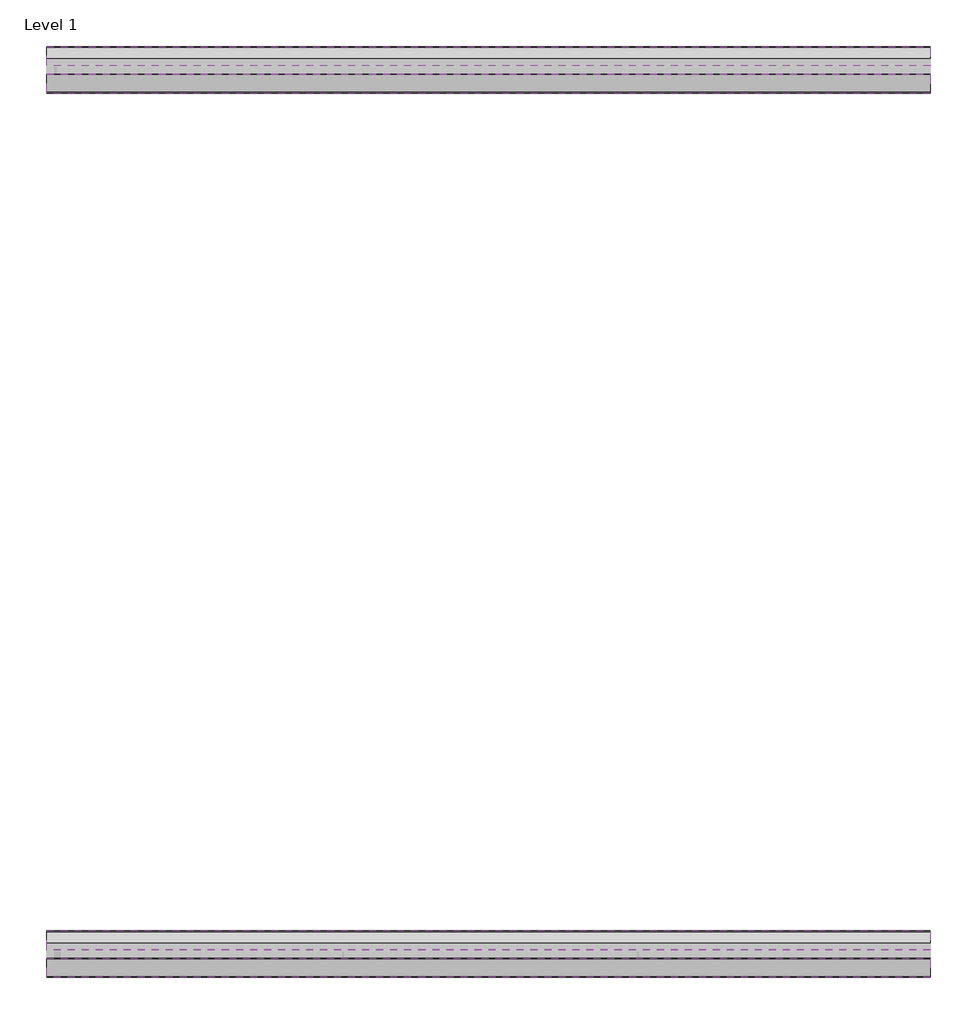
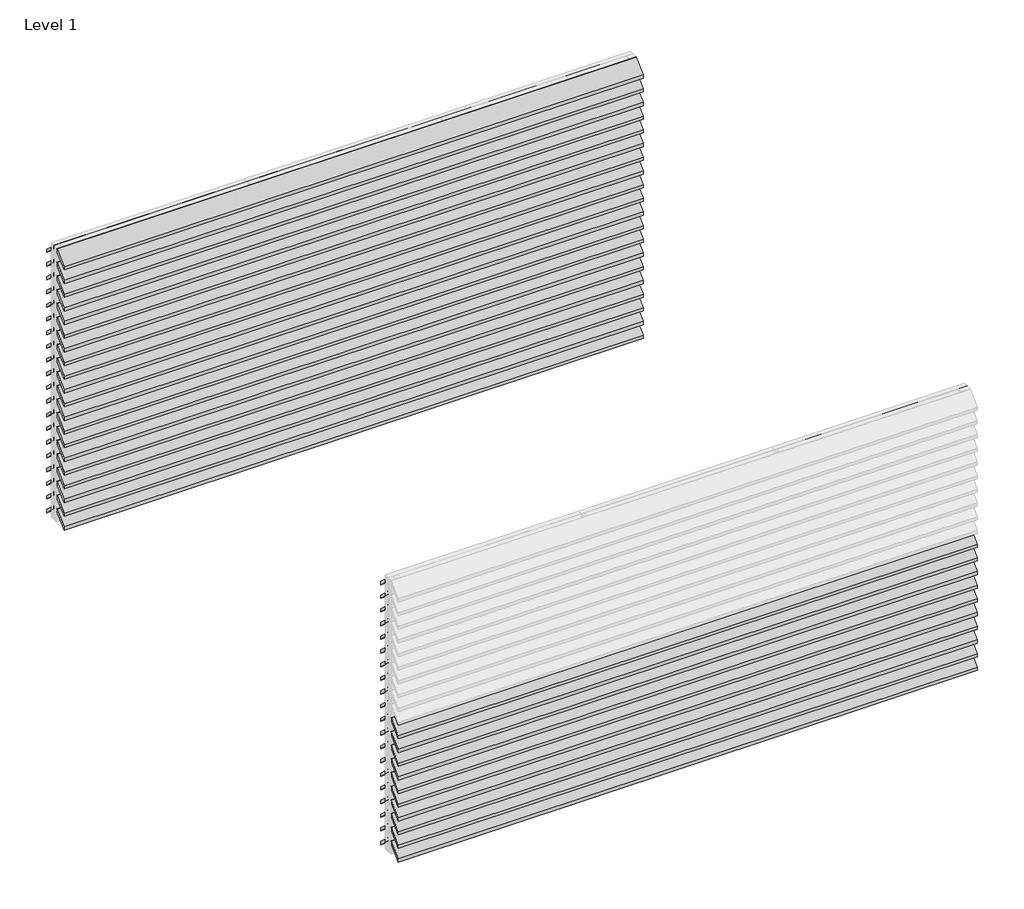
# One storey, part 2 of 2: 70 proxies.
"""IFC4 building model written with IfcOpenShell, lengths in millimetres."""

from ifc_helpers import new_model, si_unit, frame, origin, place, context, project, spatial, polyline, outline, extrude, element, save

model = new_model("IFC4")

# Units and contexts
model_context = context("Model", 3, world=origin())
ifc_project = project(units=[si_unit("LENGTHUNIT", "METRE", prefix="MILLI")], contexts=[model_context])

# Site, building, storey
site = spatial("IfcSite", under=ifc_project)
building = spatial("IfcBuilding", under=site)
storey = spatial("IfcBuildingStorey", under=building, Name="Level 1", Elevation=0.0)

# Proxies
placement = place(None, origin())
element("IfcBuildingElementProxy", 1, Name="Wall Sweeps", at=placement, inside=storey, context=model_context, shape_type="SweptSolid", body=[
    extrude(outline(polyline([(-25995.0, 3000.0), (-25995.0, 2998.0), (-25867.0, 2880.0), (-25867.0, 2845.0), (-25997.0, 2964.84375), (-25997.0, 3000.0), (-25995.0, 3000.0)])), frame((0.0, 0.0, 0.0), z_axis=(1.0, 0.0, 0.0), x_axis=(0.0, 1.0, 0.0)), (0.0, 0.0, 1.0), 6000.0),
])
element("IfcBuildingElementProxy", 2, Name="Wall Sweeps", at=placement, inside=storey, context=model_context, shape_type="SweptSolid", body=[
    extrude(outline(polyline([(-25995.0, 2850.0), (-25995.0, 2848.0), (-25867.0, 2730.0), (-25867.0, 2695.0), (-25997.0, 2814.84375), (-25997.0, 2850.0), (-25995.0, 2850.0)])), frame((0.0, 0.0, 0.0), z_axis=(1.0, 0.0, 0.0), x_axis=(0.0, 1.0, 0.0)), (0.0, 0.0, 1.0), 6000.0),
])
element("IfcBuildingElementProxy", 3, Name="Wall Sweeps", at=placement, inside=storey, context=model_context, shape_type="SweptSolid", body=[
    extrude(outline(polyline([(-25995.0, 2700.0), (-25995.0, 2698.0), (-25867.0, 2580.0), (-25867.0, 2545.0), (-25997.0, 2664.84375), (-25997.0, 2700.0), (-25995.0, 2700.0)])), frame((0.0, 0.0, 0.0), z_axis=(1.0, 0.0, 0.0), x_axis=(0.0, 1.0, 0.0)), (0.0, 0.0, 1.0), 6000.0),
])
element("IfcBuildingElementProxy", 4, Name="Wall Sweeps", at=placement, inside=storey, context=model_context, shape_type="SweptSolid", body=[
    extrude(outline(polyline([(-25995.0, 2550.0), (-25995.0, 2548.0), (-25867.0, 2430.0), (-25867.0, 2395.0), (-25997.0, 2514.84375), (-25997.0, 2550.0), (-25995.0, 2550.0)])), frame((0.0, 0.0, 0.0), z_axis=(1.0, 0.0, 0.0), x_axis=(0.0, 1.0, 0.0)), (0.0, 0.0, 1.0), 6000.0),
])
element("IfcBuildingElementProxy", 5, Name="Wall Sweeps", at=placement, inside=storey, context=model_context, shape_type="SweptSolid", body=[
    extrude(outline(polyline([(-25995.0, 2400.0), (-25995.0, 2398.0), (-25867.0, 2280.0), (-25867.0, 2245.0), (-25997.0, 2364.84375), (-25997.0, 2400.0), (-25995.0, 2400.0)])), frame((0.0, 0.0, 0.0), z_axis=(1.0, 0.0, 0.0), x_axis=(0.0, 1.0, 0.0)), (0.0, 0.0, 1.0), 6000.0),
])
element("IfcBuildingElementProxy", 6, Name="Wall Sweeps", at=placement, inside=storey, context=model_context, shape_type="SweptSolid", body=[
    extrude(outline(polyline([(-25995.0, 2250.0), (-25995.0, 2248.0), (-25867.0, 2130.0), (-25867.0, 2095.0), (-25997.0, 2214.84375), (-25997.0, 2250.0), (-25995.0, 2250.0)])), frame((0.0, 0.0, 0.0), z_axis=(1.0, 0.0, 0.0), x_axis=(0.0, 1.0, 0.0)), (0.0, 0.0, 1.0), 6000.0),
])
element("IfcBuildingElementProxy", 7, Name="Wall Sweeps", at=placement, inside=storey, context=model_context, shape_type="SweptSolid", body=[
    extrude(outline(polyline([(-25995.0, 2100.0), (-25995.0, 2098.0), (-25867.0, 1980.0), (-25867.0, 1945.0), (-25997.0, 2064.84375), (-25997.0, 2100.0), (-25995.0, 2100.0)])), frame((0.0, 0.0, 0.0), z_axis=(1.0, 0.0, 0.0), x_axis=(0.0, 1.0, 0.0)), (0.0, 0.0, 1.0), 6000.0),
])
element("IfcBuildingElementProxy", 8, Name="Wall Sweeps", at=placement, inside=storey, context=model_context, shape_type="SweptSolid", body=[
    extrude(outline(polyline([(-25995.0, 1950.0), (-25995.0, 1948.0), (-25867.0, 1830.0), (-25867.0, 1795.0), (-25997.0, 1914.84375), (-25997.0, 1950.0), (-25995.0, 1950.0)])), frame((0.0, 0.0, 0.0), z_axis=(1.0, 0.0, 0.0), x_axis=(0.0, 1.0, 0.0)), (0.0, 0.0, 1.0), 6000.0),
])
element("IfcBuildingElementProxy", 9, Name="Wall Sweeps", at=placement, inside=storey, context=model_context, shape_type="SweptSolid", body=[
    extrude(outline(polyline([(-25995.0, 1800.0), (-25995.0, 1798.0), (-25867.0, 1680.0), (-25867.0, 1645.0), (-25997.0, 1764.84375), (-25997.0, 1800.0), (-25995.0, 1800.0)])), frame((0.0, 0.0, 0.0), z_axis=(1.0, 0.0, 0.0), x_axis=(0.0, 1.0, 0.0)), (0.0, 0.0, 1.0), 6000.0),
])
element("IfcBuildingElementProxy", 10, Name="Wall Sweeps", at=placement, inside=storey, context=model_context, shape_type="SweptSolid", body=[
    extrude(outline(polyline([(-25995.0, 1650.0), (-25995.0, 1648.0), (-25867.0, 1530.0), (-25867.0, 1495.0), (-25997.0, 1614.84375), (-25997.0, 1650.0), (-25995.0, 1650.0)])), frame((0.0, 0.0, 0.0), z_axis=(1.0, 0.0, 0.0), x_axis=(0.0, 1.0, 0.0)), (0.0, 0.0, 1.0), 6000.0),
])
element("IfcBuildingElementProxy", 11, Name="Wall Sweeps", at=placement, inside=storey, context=model_context, shape_type="SweptSolid", body=[
    extrude(outline(polyline([(-25995.0, 1500.0), (-25995.0, 1498.0), (-25867.0, 1380.0), (-25867.0, 1345.0), (-25997.0, 1464.84375), (-25997.0, 1500.0), (-25995.0, 1500.0)])), frame((0.0, 0.0, 0.0), z_axis=(1.0, 0.0, 0.0), x_axis=(0.0, 1.0, 0.0)), (0.0, 0.0, 1.0), 6000.0),
])
element("IfcBuildingElementProxy", 12, Name="Wall Sweeps", at=placement, inside=storey, context=model_context, shape_type="SweptSolid", body=[
    extrude(outline(polyline([(-25995.0, 1350.0), (-25995.0, 1348.0), (-25867.0, 1230.0), (-25867.0, 1195.0), (-25997.0, 1314.84375), (-25997.0, 1350.0), (-25995.0, 1350.0)])), frame((0.0, 0.0, 0.0), z_axis=(1.0, 0.0, 0.0), x_axis=(0.0, 1.0, 0.0)), (0.0, 0.0, 1.0), 6000.0),
])
element("IfcBuildingElementProxy", 13, Name="Wall Sweeps", at=placement, inside=storey, context=model_context, shape_type="SweptSolid", body=[
    extrude(outline(polyline([(-25995.0, 1200.0), (-25995.0, 1198.0), (-25867.0, 1080.0), (-25867.0, 1045.0), (-25997.0, 1164.84375), (-25997.0, 1200.0), (-25995.0, 1200.0)])), frame((0.0, 0.0, 0.0), z_axis=(1.0, 0.0, 0.0), x_axis=(0.0, 1.0, 0.0)), (0.0, 0.0, 1.0), 6000.0),
])
element("IfcBuildingElementProxy", 14, Name="Wall Sweeps", at=placement, inside=storey, context=model_context, shape_type="SweptSolid", body=[
    extrude(outline(polyline([(-25995.0, 1050.0), (-25995.0, 1048.0), (-25867.0, 930.0), (-25867.0, 895.0), (-25997.0, 1014.84375), (-25997.0, 1050.0), (-25995.0, 1050.0)])), frame((0.0, 0.0, 0.0), z_axis=(1.0, 0.0, 0.0), x_axis=(0.0, 1.0, 0.0)), (0.0, 0.0, 1.0), 6000.0),
])
element("IfcBuildingElementProxy", 15, Name="Wall Sweeps", at=placement, inside=storey, context=model_context, shape_type="SweptSolid", body=[
    extrude(outline(polyline([(-25995.0, 900.0), (-25995.0, 898.0), (-25867.0, 780.0), (-25867.0, 745.0), (-25997.0, 864.84375), (-25997.0, 900.0), (-25995.0, 900.0)])), frame((0.0, 0.0, 0.0), z_axis=(1.0, 0.0, 0.0), x_axis=(0.0, 1.0, 0.0)), (0.0, 0.0, 1.0), 6000.0),
])
element("IfcBuildingElementProxy", 16, Name="Wall Sweeps", at=placement, inside=storey, context=model_context, shape_type="SweptSolid", body=[
    extrude(outline(polyline([(-25995.0, 750.0), (-25995.0, 748.0), (-25867.0, 630.0), (-25867.0, 595.0), (-25997.0, 714.84375), (-25997.0, 750.0), (-25995.0, 750.0)])), frame((0.0, 0.0, 0.0), z_axis=(1.0, 0.0, 0.0), x_axis=(0.0, 1.0, 0.0)), (0.0, 0.0, 1.0), 6000.0),
])
element("IfcBuildingElementProxy", 17, Name="Wall Sweeps", at=placement, inside=storey, context=model_context, shape_type="SweptSolid", body=[
    extrude(outline(polyline([(-25995.0, 600.0), (-25995.0, 598.0), (-25867.0, 480.0), (-25867.0, 445.0), (-25997.0, 564.84375), (-25997.0, 600.0), (-25995.0, 600.0)])), frame((0.0, 0.0, 0.0), z_axis=(1.0, 0.0, 0.0), x_axis=(0.0, 1.0, 0.0)), (0.0, 0.0, 1.0), 6000.0),
])
element("IfcBuildingElementProxy", 18, Name="Wall Sweeps", at=placement, inside=storey, context=model_context, shape_type="SweptSolid", body=[
    extrude(outline(polyline([(-25995.0, 450.0), (-25995.0, 448.0), (-25867.0, 330.0), (-25867.0, 295.0), (-25997.0, 414.84375), (-25997.0, 450.0), (-25995.0, 450.0)])), frame((0.0, 0.0, 0.0), z_axis=(1.0, 0.0, 0.0), x_axis=(0.0, 1.0, 0.0)), (0.0, 0.0, 1.0), 6000.0),
])
element("IfcBuildingElementProxy", 19, Name="Wall Sweeps", at=placement, inside=storey, context=model_context, shape_type="SweptSolid", body=[
    extrude(outline(polyline([(-25995.0, 300.0), (-25995.0, 298.0), (-25867.0, 180.0), (-25867.0, 145.0), (-25997.0, 264.84375), (-25997.0, 300.0), (-25995.0, 300.0)])), frame((0.0, 0.0, 0.0), z_axis=(1.0, 0.0, 0.0), x_axis=(0.0, 1.0, 0.0)), (0.0, 0.0, 1.0), 6000.0),
])
element("IfcBuildingElementProxy", 20, Name="Wall Sweeps", at=placement, inside=storey, context=model_context, shape_type="SweptSolid", body=[
    extrude(outline(polyline([(-25995.0, 150.0), (-25995.0, 148.0), (-25867.0, 30.0), (-25867.0, -5.0), (-25997.0, 114.84375), (-25997.0, 150.0), (-25995.0, 150.0)])), frame((0.0, 0.0, 0.0), z_axis=(1.0, 0.0, 0.0), x_axis=(0.0, 1.0, 0.0)), (0.0, 0.0, 1.0), 6000.0),
])
element("IfcBuildingElementProxy", 21, Name="Wall Sweeps", at=placement, inside=storey, context=model_context, shape_type="SweptSolid", body=[
    extrude(outline(polyline([(-31995.0, 3000.0), (-31995.0, 2998.0), (-31867.0, 2880.0), (-31867.0, 2845.0), (-31997.0, 2964.84375), (-31997.0, 3000.0), (-31995.0, 3000.0)])), frame((0.0, 0.0, 0.0), z_axis=(1.0, 0.0, 0.0), x_axis=(0.0, 1.0, 0.0)), (0.0, 0.0, 1.0), 6000.0),
])
element("IfcBuildingElementProxy", 22, Name="Wall Sweeps", at=placement, inside=storey, context=model_context, shape_type="SweptSolid", body=[
    extrude(outline(polyline([(-31995.0, 2850.0), (-31995.0, 2848.0), (-31867.0, 2730.0), (-31867.0, 2695.0), (-31997.0, 2814.84375), (-31997.0, 2850.0), (-31995.0, 2850.0)])), frame((0.0, 0.0, 0.0), z_axis=(1.0, 0.0, 0.0), x_axis=(0.0, 1.0, 0.0)), (0.0, 0.0, 1.0), 6000.0),
])
element("IfcBuildingElementProxy", 23, Name="Wall Sweeps", at=placement, inside=storey, context=model_context, shape_type="SweptSolid", body=[
    extrude(outline(polyline([(-31995.0, 2700.0), (-31995.0, 2698.0), (-31867.0, 2580.0), (-31867.0, 2545.0), (-31997.0, 2664.84375), (-31997.0, 2700.0), (-31995.0, 2700.0)])), frame((0.0, 0.0, 0.0), z_axis=(1.0, 0.0, 0.0), x_axis=(0.0, 1.0, 0.0)), (0.0, 0.0, 1.0), 6000.0),
])
element("IfcBuildingElementProxy", 24, Name="Wall Sweeps", at=placement, inside=storey, context=model_context, shape_type="SweptSolid", body=[
    extrude(outline(polyline([(-31995.0, 2550.0), (-31995.0, 2548.0), (-31867.0, 2430.0), (-31867.0, 2395.0), (-31997.0, 2514.84375), (-31997.0, 2550.0), (-31995.0, 2550.0)])), frame((0.0, 0.0, 0.0), z_axis=(1.0, 0.0, 0.0), x_axis=(0.0, 1.0, 0.0)), (0.0, 0.0, 1.0), 6000.0),
])
element("IfcBuildingElementProxy", 25, Name="Wall Sweeps", at=placement, inside=storey, context=model_context, shape_type="SweptSolid", body=[
    extrude(outline(polyline([(-31995.0, 2400.0), (-31995.0, 2398.0), (-31867.0, 2280.0), (-31867.0, 2245.0), (-31997.0, 2364.84375), (-31997.0, 2400.0), (-31995.0, 2400.0)])), frame((0.0, 0.0, 0.0), z_axis=(1.0, 0.0, 0.0), x_axis=(0.0, 1.0, 0.0)), (0.0, 0.0, 1.0), 6000.0),
])
element("IfcBuildingElementProxy", 26, Name="Wall Sweeps", at=placement, inside=storey, context=model_context, shape_type="SweptSolid", body=[
    extrude(outline(polyline([(-31995.0, 2250.0), (-31995.0, 2248.0), (-31867.0, 2130.0), (-31867.0, 2095.0), (-31997.0, 2214.84375), (-31997.0, 2250.0), (-31995.0, 2250.0)])), frame((0.0, 0.0, 0.0), z_axis=(1.0, 0.0, 0.0), x_axis=(0.0, 1.0, 0.0)), (0.0, 0.0, 1.0), 6000.0),
])
element("IfcBuildingElementProxy", 27, Name="Wall Sweeps", at=placement, inside=storey, context=model_context, shape_type="SweptSolid", body=[
    extrude(outline(polyline([(-31995.0, 2100.0), (-31995.0, 2098.0), (-31867.0, 1980.0), (-31867.0, 1945.0), (-31997.0, 2064.84375), (-31997.0, 2100.0), (-31995.0, 2100.0)])), frame((0.0, 0.0, 0.0), z_axis=(1.0, 0.0, 0.0), x_axis=(0.0, 1.0, 0.0)), (0.0, 0.0, 1.0), 6000.0),
])
element("IfcBuildingElementProxy", 28, Name="Wall Sweeps", at=placement, inside=storey, context=model_context, shape_type="SweptSolid", body=[
    extrude(outline(polyline([(-31995.0, 1950.0), (-31995.0, 1948.0), (-31867.0, 1830.0), (-31867.0, 1795.0), (-31997.0, 1914.84375), (-31997.0, 1950.0), (-31995.0, 1950.0)])), frame((0.0, 0.0, 0.0), z_axis=(1.0, 0.0, 0.0), x_axis=(0.0, 1.0, 0.0)), (0.0, 0.0, 1.0), 6000.0),
])
element("IfcBuildingElementProxy", 29, Name="Wall Sweeps", at=placement, inside=storey, context=model_context, shape_type="SweptSolid", body=[
    extrude(outline(polyline([(-31995.0, 1800.0), (-31995.0, 1798.0), (-31867.0, 1680.0), (-31867.0, 1645.0), (-31997.0, 1764.84375), (-31997.0, 1800.0), (-31995.0, 1800.0)])), frame((0.0, 0.0, 0.0), z_axis=(1.0, 0.0, 0.0), x_axis=(0.0, 1.0, 0.0)), (0.0, 0.0, 1.0), 6000.0),
])
element("IfcBuildingElementProxy", 30, Name="Wall Sweeps", at=placement, inside=storey, context=model_context, shape_type="SweptSolid", body=[
    extrude(outline(polyline([(-31995.0, 1650.0), (-31995.0, 1648.0), (-31867.0, 1530.0), (-31867.0, 1495.0), (-31997.0, 1614.84375), (-31997.0, 1650.0), (-31995.0, 1650.0)])), frame((0.0, 0.0, 0.0), z_axis=(1.0, 0.0, 0.0), x_axis=(0.0, 1.0, 0.0)), (0.0, 0.0, 1.0), 6000.0),
])
element("IfcBuildingElementProxy", 31, Name="Wall Sweeps", at=placement, inside=storey, context=model_context, shape_type="SweptSolid", body=[
    extrude(outline(polyline([(-31995.0, 1500.0), (-31995.0, 1498.0), (-31867.0, 1380.0), (-31867.0, 1345.0), (-31997.0, 1464.84375), (-31997.0, 1500.0), (-31995.0, 1500.0)])), frame((0.0, 0.0, 0.0), z_axis=(1.0, 0.0, 0.0), x_axis=(0.0, 1.0, 0.0)), (0.0, 0.0, 1.0), 6000.0),
])
element("IfcBuildingElementProxy", 32, Name="Wall Sweeps", at=placement, inside=storey, context=model_context, shape_type="SweptSolid", body=[
    extrude(outline(polyline([(-31995.0, 1350.0), (-31995.0, 1348.0), (-31867.0, 1230.0), (-31867.0, 1195.0), (-31997.0, 1314.84375), (-31997.0, 1350.0), (-31995.0, 1350.0)])), frame((0.0, 0.0, 0.0), z_axis=(1.0, 0.0, 0.0), x_axis=(0.0, 1.0, 0.0)), (0.0, 0.0, 1.0), 6000.0),
])
element("IfcBuildingElementProxy", 33, Name="Wall Sweeps", at=placement, inside=storey, context=model_context, shape_type="SweptSolid", body=[
    extrude(outline(polyline([(-31995.0, 1200.0), (-31995.0, 1198.0), (-31867.0, 1080.0), (-31867.0, 1045.0), (-31997.0, 1164.84375), (-31997.0, 1200.0), (-31995.0, 1200.0)])), frame((0.0, 0.0, 0.0), z_axis=(1.0, 0.0, 0.0), x_axis=(0.0, 1.0, 0.0)), (0.0, 0.0, 1.0), 6000.0),
])
element("IfcBuildingElementProxy", 34, Name="Wall Sweeps", at=placement, inside=storey, context=model_context, shape_type="SweptSolid", body=[
    extrude(outline(polyline([(-31995.0, 1050.0), (-31995.0, 1048.0), (-31867.0, 930.0), (-31867.0, 895.0), (-31997.0, 1014.84375), (-31997.0, 1050.0), (-31995.0, 1050.0)])), frame((0.0, 0.0, 0.0), z_axis=(1.0, 0.0, 0.0), x_axis=(0.0, 1.0, 0.0)), (0.0, 0.0, 1.0), 6000.0),
])
element("IfcBuildingElementProxy", 35, Name="Wall Sweeps", at=placement, inside=storey, context=model_context, shape_type="SweptSolid", body=[
    extrude(outline(polyline([(-31995.0, 900.0), (-31995.0, 898.0), (-31867.0, 780.0), (-31867.0, 745.0), (-31997.0, 864.84375), (-31997.0, 900.0), (-31995.0, 900.0)])), frame((0.0, 0.0, 0.0), z_axis=(1.0, 0.0, 0.0), x_axis=(0.0, 1.0, 0.0)), (0.0, 0.0, 1.0), 6000.0),
])
element("IfcBuildingElementProxy", 36, Name="Wall Sweeps", at=placement, inside=storey, context=model_context, shape_type="SweptSolid", body=[
    extrude(outline(polyline([(-31995.0, 750.0), (-31995.0, 748.0), (-31867.0, 630.0), (-31867.0, 595.0), (-31997.0, 714.84375), (-31997.0, 750.0), (-31995.0, 750.0)])), frame((0.0, 0.0, 0.0), z_axis=(1.0, 0.0, 0.0), x_axis=(0.0, 1.0, 0.0)), (0.0, 0.0, 1.0), 6000.0),
])
element("IfcBuildingElementProxy", 37, Name="Wall Sweeps", at=placement, inside=storey, context=model_context, shape_type="SweptSolid", body=[
    extrude(outline(polyline([(-31995.0, 600.0), (-31995.0, 598.0), (-31867.0, 480.0), (-31867.0, 445.0), (-31997.0, 564.84375), (-31997.0, 600.0), (-31995.0, 600.0)])), frame((0.0, 0.0, 0.0), z_axis=(1.0, 0.0, 0.0), x_axis=(0.0, 1.0, 0.0)), (0.0, 0.0, 1.0), 6000.0),
])
element("IfcBuildingElementProxy", 38, Name="Wall Sweeps", at=placement, inside=storey, context=model_context, shape_type="SweptSolid", body=[
    extrude(outline(polyline([(-31995.0, 450.0), (-31995.0, 448.0), (-31867.0, 330.0), (-31867.0, 295.0), (-31997.0, 414.84375), (-31997.0, 450.0), (-31995.0, 450.0)])), frame((0.0, 0.0, 0.0), z_axis=(1.0, 0.0, 0.0), x_axis=(0.0, 1.0, 0.0)), (0.0, 0.0, 1.0), 6000.0),
])
element("IfcBuildingElementProxy", 39, Name="Wall Sweeps", at=placement, inside=storey, context=model_context, shape_type="SweptSolid", body=[
    extrude(outline(polyline([(-31995.0, 300.0), (-31995.0, 298.0), (-31867.0, 180.0), (-31867.0, 145.0), (-31997.0, 264.84375), (-31997.0, 300.0), (-31995.0, 300.0)])), frame((0.0, 0.0, 0.0), z_axis=(1.0, 0.0, 0.0), x_axis=(0.0, 1.0, 0.0)), (0.0, 0.0, 1.0), 6000.0),
])
element("IfcBuildingElementProxy", 40, Name="Wall Sweeps", at=placement, inside=storey, context=model_context, shape_type="SweptSolid", body=[
    extrude(outline(polyline([(-31995.0, 150.0), (-31995.0, 148.0), (-31867.0, 30.0), (-31867.0, -5.0), (-31997.0, 114.84375), (-31997.0, 150.0), (-31995.0, 150.0)])), frame((0.0, 0.0, 0.0), z_axis=(1.0, 0.0, 0.0), x_axis=(0.0, 1.0, 0.0)), (0.0, 0.0, 1.0), 6000.0),
])
element("IfcBuildingElementProxy", 41, Name="Wall Sweeps", at=placement, inside=storey, context=model_context, shape_type="SweptSolid", body=[
    extrude(outline(polyline([(-26055.0, 3000.0), (-26053.0, 3000.0), (-26053.0, 2964.84375), (-26183.0, 2845.0), (-26183.0, 2880.0), (-26055.0, 2998.0), (-26055.0, 3000.0)])), frame((0.0, 0.0, 0.0), z_axis=(1.0, 0.0, 0.0), x_axis=(0.0, 1.0, 0.0)), (0.0, 0.0, 1.0), 6000.0),
])
element("IfcBuildingElementProxy", 42, Name="Wall Sweeps", at=placement, inside=storey, context=model_context, shape_type="SweptSolid", body=[
    extrude(outline(polyline([(-26055.0, 2850.0), (-26053.0, 2850.0), (-26053.0, 2814.84375), (-26183.0, 2695.0), (-26183.0, 2730.0), (-26055.0, 2848.0), (-26055.0, 2850.0)])), frame((0.0, 0.0, 0.0), z_axis=(1.0, 0.0, 0.0), x_axis=(0.0, 1.0, 0.0)), (0.0, 0.0, 1.0), 6000.0),
])
element("IfcBuildingElementProxy", 43, Name="Wall Sweeps", at=placement, inside=storey, context=model_context, shape_type="SweptSolid", body=[
    extrude(outline(polyline([(-26055.0, 2700.0), (-26053.0, 2700.0), (-26053.0, 2664.84375), (-26183.0, 2545.0), (-26183.0, 2580.0), (-26055.0, 2698.0), (-26055.0, 2700.0)])), frame((0.0, 0.0, 0.0), z_axis=(1.0, 0.0, 0.0), x_axis=(0.0, 1.0, 0.0)), (0.0, 0.0, 1.0), 6000.0),
])
element("IfcBuildingElementProxy", 44, Name="Wall Sweeps", at=placement, inside=storey, context=model_context, shape_type="SweptSolid", body=[
    extrude(outline(polyline([(-26055.0, 2550.0), (-26053.0, 2550.0), (-26053.0, 2514.84375), (-26183.0, 2395.0), (-26183.0, 2430.0), (-26055.0, 2548.0), (-26055.0, 2550.0)])), frame((0.0, 0.0, 0.0), z_axis=(1.0, 0.0, 0.0), x_axis=(0.0, 1.0, 0.0)), (0.0, 0.0, 1.0), 6000.0),
])
element("IfcBuildingElementProxy", 45, Name="Wall Sweeps", at=placement, inside=storey, context=model_context, shape_type="SweptSolid", body=[
    extrude(outline(polyline([(-26055.0, 2400.0), (-26053.0, 2400.0), (-26053.0, 2364.84375), (-26183.0, 2245.0), (-26183.0, 2280.0), (-26055.0, 2398.0), (-26055.0, 2400.0)])), frame((0.0, 0.0, 0.0), z_axis=(1.0, 0.0, 0.0), x_axis=(0.0, 1.0, 0.0)), (0.0, 0.0, 1.0), 6000.0),
])
element("IfcBuildingElementProxy", 46, Name="Wall Sweeps", at=placement, inside=storey, context=model_context, shape_type="SweptSolid", body=[
    extrude(outline(polyline([(-26055.0, 2250.0), (-26053.0, 2250.0), (-26053.0, 2214.84375), (-26183.0, 2095.0), (-26183.0, 2130.0), (-26055.0, 2248.0), (-26055.0, 2250.0)])), frame((0.0, 0.0, 0.0), z_axis=(1.0, 0.0, 0.0), x_axis=(0.0, 1.0, 0.0)), (0.0, 0.0, 1.0), 6000.0),
])
element("IfcBuildingElementProxy", 47, Name="Wall Sweeps", at=placement, inside=storey, context=model_context, shape_type="SweptSolid", body=[
    extrude(outline(polyline([(-26055.0, 2100.0), (-26053.0, 2100.0), (-26053.0, 2064.84375), (-26183.0, 1945.0), (-26183.0, 1980.0), (-26055.0, 2098.0), (-26055.0, 2100.0)])), frame((0.0, 0.0, 0.0), z_axis=(1.0, 0.0, 0.0), x_axis=(0.0, 1.0, 0.0)), (0.0, 0.0, 1.0), 6000.0),
])
element("IfcBuildingElementProxy", 48, Name="Wall Sweeps", at=placement, inside=storey, context=model_context, shape_type="SweptSolid", body=[
    extrude(outline(polyline([(-26055.0, 1950.0), (-26053.0, 1950.0), (-26053.0, 1914.84375), (-26183.0, 1795.0), (-26183.0, 1830.0), (-26055.0, 1948.0), (-26055.0, 1950.0)])), frame((0.0, 0.0, 0.0), z_axis=(1.0, 0.0, 0.0), x_axis=(0.0, 1.0, 0.0)), (0.0, 0.0, 1.0), 6000.0),
])
element("IfcBuildingElementProxy", 49, Name="Wall Sweeps", at=placement, inside=storey, context=model_context, shape_type="SweptSolid", body=[
    extrude(outline(polyline([(-26055.0, 1800.0), (-26053.0, 1800.0), (-26053.0, 1764.84375), (-26183.0, 1645.0), (-26183.0, 1680.0), (-26055.0, 1798.0), (-26055.0, 1800.0)])), frame((0.0, 0.0, 0.0), z_axis=(1.0, 0.0, 0.0), x_axis=(0.0, 1.0, 0.0)), (0.0, 0.0, 1.0), 6000.0),
])
element("IfcBuildingElementProxy", 50, Name="Wall Sweeps", at=placement, inside=storey, context=model_context, shape_type="SweptSolid", body=[
    extrude(outline(polyline([(-26055.0, 1650.0), (-26053.0, 1650.0), (-26053.0, 1614.84375), (-26183.0, 1495.0), (-26183.0, 1530.0), (-26055.0, 1648.0), (-26055.0, 1650.0)])), frame((0.0, 0.0, 0.0), z_axis=(1.0, 0.0, 0.0), x_axis=(0.0, 1.0, 0.0)), (0.0, 0.0, 1.0), 6000.0),
])
element("IfcBuildingElementProxy", 51, Name="Wall Sweeps", at=placement, inside=storey, context=model_context, shape_type="SweptSolid", body=[
    extrude(outline(polyline([(-26055.0, 1500.0), (-26053.0, 1500.0), (-26053.0, 1464.84375), (-26183.0, 1345.0), (-26183.0, 1380.0), (-26055.0, 1498.0), (-26055.0, 1500.0)])), frame((0.0, 0.0, 0.0), z_axis=(1.0, 0.0, 0.0), x_axis=(0.0, 1.0, 0.0)), (0.0, 0.0, 1.0), 6000.0),
])
element("IfcBuildingElementProxy", 52, Name="Wall Sweeps", at=placement, inside=storey, context=model_context, shape_type="SweptSolid", body=[
    extrude(outline(polyline([(-26055.0, 1350.0), (-26053.0, 1350.0), (-26053.0, 1314.84375), (-26183.0, 1195.0), (-26183.0, 1230.0), (-26055.0, 1348.0), (-26055.0, 1350.0)])), frame((0.0, 0.0, 0.0), z_axis=(1.0, 0.0, 0.0), x_axis=(0.0, 1.0, 0.0)), (0.0, 0.0, 1.0), 6000.0),
])
element("IfcBuildingElementProxy", 53, Name="Wall Sweeps", at=placement, inside=storey, context=model_context, shape_type="SweptSolid", body=[
    extrude(outline(polyline([(-26055.0, 1200.0), (-26053.0, 1200.0), (-26053.0, 1164.84375), (-26183.0, 1045.0), (-26183.0, 1080.0), (-26055.0, 1198.0), (-26055.0, 1200.0)])), frame((0.0, 0.0, 0.0), z_axis=(1.0, 0.0, 0.0), x_axis=(0.0, 1.0, 0.0)), (0.0, 0.0, 1.0), 6000.0),
])
element("IfcBuildingElementProxy", 54, Name="Wall Sweeps", at=placement, inside=storey, context=model_context, shape_type="SweptSolid", body=[
    extrude(outline(polyline([(-26055.0, 1050.0), (-26053.0, 1050.0), (-26053.0, 1014.84375), (-26183.0, 895.0), (-26183.0, 930.0), (-26055.0, 1048.0), (-26055.0, 1050.0)])), frame((0.0, 0.0, 0.0), z_axis=(1.0, 0.0, 0.0), x_axis=(0.0, 1.0, 0.0)), (0.0, 0.0, 1.0), 6000.0),
])
element("IfcBuildingElementProxy", 55, Name="Wall Sweeps", at=placement, inside=storey, context=model_context, shape_type="SweptSolid", body=[
    extrude(outline(polyline([(-26055.0, 900.0), (-26053.0, 900.0), (-26053.0, 864.84375), (-26183.0, 745.0), (-26183.0, 780.0), (-26055.0, 898.0), (-26055.0, 900.0)])), frame((0.0, 0.0, 0.0), z_axis=(1.0, 0.0, 0.0), x_axis=(0.0, 1.0, 0.0)), (0.0, 0.0, 1.0), 6000.0),
])
element("IfcBuildingElementProxy", 56, Name="Wall Sweeps", at=placement, inside=storey, context=model_context, shape_type="SweptSolid", body=[
    extrude(outline(polyline([(-26055.0, 750.0), (-26053.0, 750.0), (-26053.0, 714.84375), (-26183.0, 595.0), (-26183.0, 630.0), (-26055.0, 748.0), (-26055.0, 750.0)])), frame((0.0, 0.0, 0.0), z_axis=(1.0, 0.0, 0.0), x_axis=(0.0, 1.0, 0.0)), (0.0, 0.0, 1.0), 6000.0),
])
element("IfcBuildingElementProxy", 57, Name="Wall Sweeps", at=placement, inside=storey, context=model_context, shape_type="SweptSolid", body=[
    extrude(outline(polyline([(-26055.0, 600.0), (-26053.0, 600.0), (-26053.0, 564.84375), (-26183.0, 445.0), (-26183.0, 480.0), (-26055.0, 598.0), (-26055.0, 600.0)])), frame((0.0, 0.0, 0.0), z_axis=(1.0, 0.0, 0.0), x_axis=(0.0, 1.0, 0.0)), (0.0, 0.0, 1.0), 6000.0),
])
element("IfcBuildingElementProxy", 58, Name="Wall Sweeps", at=placement, inside=storey, context=model_context, shape_type="SweptSolid", body=[
    extrude(outline(polyline([(-26055.0, 450.0), (-26053.0, 450.0), (-26053.0, 414.84375), (-26183.0, 295.0), (-26183.0, 330.0), (-26055.0, 448.0), (-26055.0, 450.0)])), frame((0.0, 0.0, 0.0), z_axis=(1.0, 0.0, 0.0), x_axis=(0.0, 1.0, 0.0)), (0.0, 0.0, 1.0), 6000.0),
])
element("IfcBuildingElementProxy", 59, Name="Wall Sweeps", at=placement, inside=storey, context=model_context, shape_type="SweptSolid", body=[
    extrude(outline(polyline([(-26055.0, 300.0), (-26053.0, 300.0), (-26053.0, 264.84375), (-26183.0, 145.0), (-26183.0, 180.0), (-26055.0, 298.0), (-26055.0, 300.0)])), frame((0.0, 0.0, 0.0), z_axis=(1.0, 0.0, 0.0), x_axis=(0.0, 1.0, 0.0)), (0.0, 0.0, 1.0), 6000.0),
])
element("IfcBuildingElementProxy", 60, Name="Wall Sweeps", at=placement, inside=storey, context=model_context, shape_type="SweptSolid", body=[
    extrude(outline(polyline([(-26055.0, 150.0), (-26053.0, 150.0), (-26053.0, 114.84375), (-26183.0, -5.0), (-26183.0, 30.0), (-26055.0, 148.0), (-26055.0, 150.0)])), frame((0.0, 0.0, 0.0), z_axis=(1.0, 0.0, 0.0), x_axis=(0.0, 1.0, 0.0)), (0.0, 0.0, 1.0), 6000.0),
])
element("IfcBuildingElementProxy", 61, Name="Wall Sweeps", at=placement, inside=storey, context=model_context, shape_type="SweptSolid", body=[
    extrude(outline(polyline([(-32055.0, 1500.0), (-32053.0, 1500.0), (-32053.0, 1464.84375), (-32183.0, 1345.0), (-32183.0, 1380.0), (-32055.0, 1498.0), (-32055.0, 1500.0)])), frame((0.0, 0.0, 0.0), z_axis=(1.0, 0.0, 0.0), x_axis=(0.0, 1.0, 0.0)), (0.0, 0.0, 1.0), 6000.0),
])
element("IfcBuildingElementProxy", 62, Name="Wall Sweeps", at=placement, inside=storey, context=model_context, shape_type="SweptSolid", body=[
    extrude(outline(polyline([(-32055.0, 1350.0), (-32053.0, 1350.0), (-32053.0, 1314.84375), (-32183.0, 1195.0), (-32183.0, 1230.0), (-32055.0, 1348.0), (-32055.0, 1350.0)])), frame((0.0, 0.0, 0.0), z_axis=(1.0, 0.0, 0.0), x_axis=(0.0, 1.0, 0.0)), (0.0, 0.0, 1.0), 6000.0),
])
element("IfcBuildingElementProxy", 63, Name="Wall Sweeps", at=placement, inside=storey, context=model_context, shape_type="SweptSolid", body=[
    extrude(outline(polyline([(-32055.0, 1200.0), (-32053.0, 1200.0), (-32053.0, 1164.84375), (-32183.0, 1045.0), (-32183.0, 1080.0), (-32055.0, 1198.0), (-32055.0, 1200.0)])), frame((0.0, 0.0, 0.0), z_axis=(1.0, 0.0, 0.0), x_axis=(0.0, 1.0, 0.0)), (0.0, 0.0, 1.0), 6000.0),
])
element("IfcBuildingElementProxy", 64, Name="Wall Sweeps", at=placement, inside=storey, context=model_context, shape_type="SweptSolid", body=[
    extrude(outline(polyline([(-32055.0, 1050.0), (-32053.0, 1050.0), (-32053.0, 1014.84375), (-32183.0, 895.0), (-32183.0, 930.0), (-32055.0, 1048.0), (-32055.0, 1050.0)])), frame((0.0, 0.0, 0.0), z_axis=(1.0, 0.0, 0.0), x_axis=(0.0, 1.0, 0.0)), (0.0, 0.0, 1.0), 6000.0),
])
element("IfcBuildingElementProxy", 65, Name="Wall Sweeps", at=placement, inside=storey, context=model_context, shape_type="SweptSolid", body=[
    extrude(outline(polyline([(-32055.0, 900.0), (-32053.0, 900.0), (-32053.0, 864.84375), (-32183.0, 745.0), (-32183.0, 780.0), (-32055.0, 898.0), (-32055.0, 900.0)])), frame((0.0, 0.0, 0.0), z_axis=(1.0, 0.0, 0.0), x_axis=(0.0, 1.0, 0.0)), (0.0, 0.0, 1.0), 6000.0),
])
element("IfcBuildingElementProxy", 66, Name="Wall Sweeps", at=placement, inside=storey, context=model_context, shape_type="SweptSolid", body=[
    extrude(outline(polyline([(-32055.0, 750.0), (-32053.0, 750.0), (-32053.0, 714.84375), (-32183.0, 595.0), (-32183.0, 630.0), (-32055.0, 748.0), (-32055.0, 750.0)])), frame((0.0, 0.0, 0.0), z_axis=(1.0, 0.0, 0.0), x_axis=(0.0, 1.0, 0.0)), (0.0, 0.0, 1.0), 6000.0),
])
element("IfcBuildingElementProxy", 67, Name="Wall Sweeps", at=placement, inside=storey, context=model_context, shape_type="SweptSolid", body=[
    extrude(outline(polyline([(-32055.0, 600.0), (-32053.0, 600.0), (-32053.0, 564.84375), (-32183.0, 445.0), (-32183.0, 480.0), (-32055.0, 598.0), (-32055.0, 600.0)])), frame((0.0, 0.0, 0.0), z_axis=(1.0, 0.0, 0.0), x_axis=(0.0, 1.0, 0.0)), (0.0, 0.0, 1.0), 6000.0),
])
element("IfcBuildingElementProxy", 68, Name="Wall Sweeps", at=placement, inside=storey, context=model_context, shape_type="SweptSolid", body=[
    extrude(outline(polyline([(-32055.0, 450.0), (-32053.0, 450.0), (-32053.0, 414.84375), (-32183.0, 295.0), (-32183.0, 330.0), (-32055.0, 448.0), (-32055.0, 450.0)])), frame((0.0, 0.0, 0.0), z_axis=(1.0, 0.0, 0.0), x_axis=(0.0, 1.0, 0.0)), (0.0, 0.0, 1.0), 6000.0),
])
element("IfcBuildingElementProxy", 69, Name="Wall Sweeps", at=placement, inside=storey, context=model_context, shape_type="SweptSolid", body=[
    extrude(outline(polyline([(-32055.0, 300.0), (-32053.0, 300.0), (-32053.0, 264.84375), (-32183.0, 145.0), (-32183.0, 180.0), (-32055.0, 298.0), (-32055.0, 300.0)])), frame((0.0, 0.0, 0.0), z_axis=(1.0, 0.0, 0.0), x_axis=(0.0, 1.0, 0.0)), (0.0, 0.0, 1.0), 6000.0),
])
element("IfcBuildingElementProxy", 70, Name="Wall Sweeps", at=placement, inside=storey, context=model_context, shape_type="SweptSolid", body=[
    extrude(outline(polyline([(-32055.0, 150.0), (-32053.0, 150.0), (-32053.0, 114.84375), (-32183.0, -5.0), (-32183.0, 30.0), (-32055.0, 148.0), (-32055.0, 150.0)])), frame((0.0, 0.0, 0.0), z_axis=(1.0, 0.0, 0.0), x_axis=(0.0, 1.0, 0.0)), (0.0, 0.0, 1.0), 6000.0),
])

save(model, "model.ifc")
